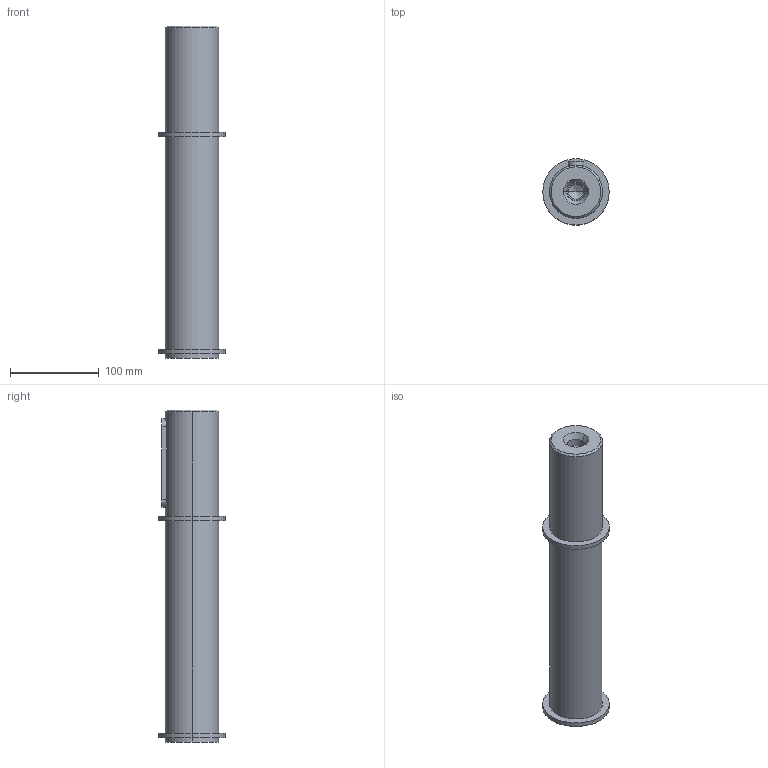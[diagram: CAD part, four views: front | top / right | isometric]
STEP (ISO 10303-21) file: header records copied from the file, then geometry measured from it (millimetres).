
FILE_DESCRIPTION(/* description */ (''),/* implementation_level */ '2;1');
FILE_NAME(/* name */ '4_ALBERO LENTO SEMPLICE B123',/* time_stamp */ '2025-10-22T11:20:02+02:00',/* author */ (''),/* organization */ (''),/* preprocessor_version */ 'ST-DEVELOPER v19.2',/* originating_system */ 'Rhino 8.23',/* authorisation */ '');
FILE_SCHEMA (('CONFIG_CONTROL_DESIGN'));
Length unit declared in the file: millimetre
Products named in the file (2): Document; Albero 60x120-(1231)
Bounding box: 75 x 75 x 375 mm (x, y, z)
Volume: 1068119.9 mm3; surface area: 86984 mm2
Topology: 1 solids, 1 shells, 34 faces, 70 edges, 43 vertices
Faces by surface type: cylinder 16, plane 10, bspline 8
Entity records: 1180 total; most frequent: CARTESIAN_POINT 343, ORIENTED_EDGE 136, DIRECTION 106, EDGE_CURVE 68, AXIS2_PLACEMENT_3D 66, VERTEX_POINT 43, EDGE_LOOP 41, TRIMMED_CURVE 36
